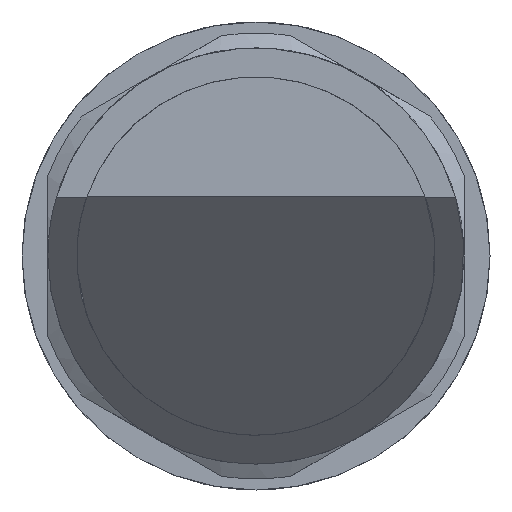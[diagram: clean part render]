
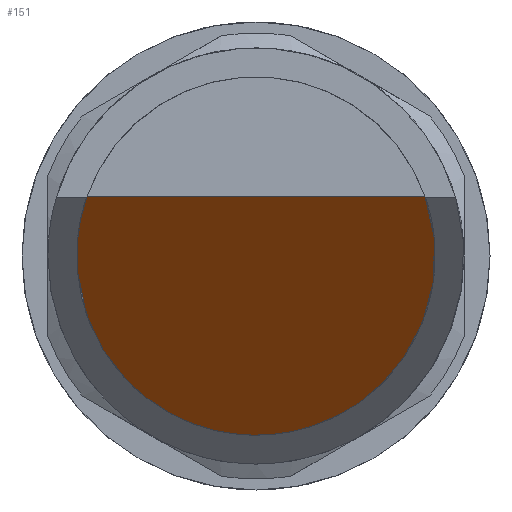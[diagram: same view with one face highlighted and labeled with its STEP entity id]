
A CAD part, left-side view. The second image highlights one B-rep face of the part: STEP entity #151.
In plain terms, the highlighted planar face has unit normal (-0.707, 0, -0.707) as drawn and (0.707, 0, 0.707) by its records, which use the part's own axes.
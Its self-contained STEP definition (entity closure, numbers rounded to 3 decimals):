
#151 = ADVANCED_FACE( '', ( #537 ), #538, .T. );
#537 = FACE_OUTER_BOUND( '', #1296, .T. );
#538 = PLANE( '', #1297 );
#1296 = EDGE_LOOP( '', ( #2133, #2134, #2135, #2136, #2137, #2138 ) );
#1297 = AXIS2_PLACEMENT_3D( '', #2139, #2140, #2141 );
#2133 = ORIENTED_EDGE( '', *, *, #5307, .F. );
#2134 = ORIENTED_EDGE( '', *, *, #5297, .T. );
#2135 = ORIENTED_EDGE( '', *, *, #5291, .F. );
#2136 = ORIENTED_EDGE( '', *, *, #5301, .F. );
#2137 = ORIENTED_EDGE( '', *, *, #5308, .F. );
#2138 = ORIENTED_EDGE( '', *, *, #5309, .F. );
#2139 = CARTESIAN_POINT( '', ( 18.567, 8.964, -3. ) );
#2140 = DIRECTION( '', ( 0.707, 0., 0.707 ) );
#2141 = DIRECTION( '', ( 0.707, 0., -0.707 ) );
#5291 = EDGE_CURVE( '', #6378, #6380, #6381, .F. );
#5297 = EDGE_CURVE( '', #6391, #6380, #6392, .T. );
#5301 = EDGE_CURVE( '', #6396, #6378, #6398, .T. );
#5307 = EDGE_CURVE( '', #6391, #6407, #6408, .F. );
#5308 = EDGE_CURVE( '', #6409, #6396, #6410, .F. );
#5309 = EDGE_CURVE( '', #6407, #6409, #6411, .T. );
#6378 = VERTEX_POINT( '', #8161 );
#6380 = VERTEX_POINT( '', #8164 );
#6381 = ELLIPSE( '', #8165, 12.728, 9. );
#6391 = VERTEX_POINT( '', #8177 );
#6392 = LINE( '', #8178, #8179 );
#6396 = VERTEX_POINT( '', #8185 );
#6398 = LINE( '', #8188, #8189 );
#6407 = VERTEX_POINT( '', #8201 );
#6408 = ELLIPSE( '', #8202, 12.728, 9. );
#6409 = VERTEX_POINT( '', #8203 );
#6410 = ELLIPSE( '', #8204, 12.728, 9. );
#6411 = LINE( '', #8205, #8206 );
#8161 = CARTESIAN_POINT( '', ( 14.767, -8.964, 0.801 ) );
#8164 = CARTESIAN_POINT( '', ( 14.767, 8.964, 0.801 ) );
#8165 = AXIS2_PLACEMENT_3D( '', #12744, #12745, #12746 );
#8177 = CARTESIAN_POINT( '', ( 16.368, 8.964, -0.801 ) );
#8178 = CARTESIAN_POINT( '', ( 18.567, 8.964, -3. ) );
#8179 = VECTOR( '', #12758, 1000. );
#8185 = CARTESIAN_POINT( '', ( 16.368, -8.964, -0.801 ) );
#8188 = CARTESIAN_POINT( '', ( 18.567, -8.964, -3. ) );
#8189 = VECTOR( '', #12762, 1000. );
#8201 = CARTESIAN_POINT( '', ( 18.567, 8.485, -3. ) );
#8202 = AXIS2_PLACEMENT_3D( '', #12772, #12773, #12774 );
#8203 = CARTESIAN_POINT( '', ( 18.567, -8.485, -3. ) );
#8204 = AXIS2_PLACEMENT_3D( '', #12775, #12776, #12777 );
#8205 = CARTESIAN_POINT( '', ( 18.567, 8.964, -3. ) );
#8206 = VECTOR( '', #12778, 1000. );
#12744 = CARTESIAN_POINT( '', ( 15.567, 0., 0. ) );
#12745 = DIRECTION( '', ( 0.707, 0., 0.707 ) );
#12746 = DIRECTION( '', ( -0.707, 0., 0.707 ) );
#12758 = DIRECTION( '', ( -0.707, 0., 0.707 ) );
#12762 = DIRECTION( '', ( -0.707, 0., 0.707 ) );
#12772 = CARTESIAN_POINT( '', ( 15.567, 0., 0. ) );
#12773 = DIRECTION( '', ( 0.707, 0., 0.707 ) );
#12774 = DIRECTION( '', ( -0.707, 0., 0.707 ) );
#12775 = CARTESIAN_POINT( '', ( 15.567, 0., 0. ) );
#12776 = DIRECTION( '', ( 0.707, 0., 0.707 ) );
#12777 = DIRECTION( '', ( -0.707, 0., 0.707 ) );
#12778 = DIRECTION( '', ( 0., -1., 0. ) );
